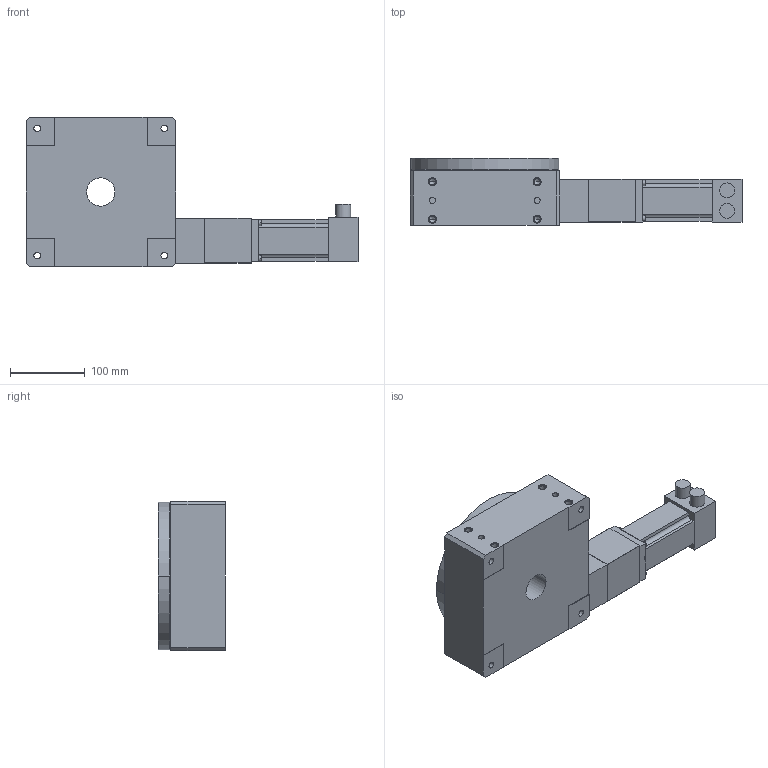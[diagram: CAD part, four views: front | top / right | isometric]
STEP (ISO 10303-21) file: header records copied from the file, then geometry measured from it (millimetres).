
FILE_DESCRIPTION((''),'2;1');
FILE_NAME('R200M7MP2E0_ASM','2009-07-02T',('FK20128'),(''),'PRO/ENGINEER BY PARAMETRIC TECHNOLOGY CORPORATION, 2006200','PRO/ENGINEER BY PARAMETRIC TECHNOLOGY CORPORATION, 2006200','');
FILE_SCHEMA(('CONFIG_CONTROL_DESIGN'));
Length unit declared in the file: millimetre
Products named in the file (4): R200M; R200M-M23; RXXXM-BE233; R200M7MP2E0_ASM
Assembly tree (3 placements, depth 2):
  R200M7MP2E0_ASM
    R200M
    R200M-M23
    RXXXM-BE233
Bounding box: 444.12 x 90 x 200 mm (x, y, z)
Volume: 3962945.5 mm3; surface area: 314236 mm2
Topology: 4 solids, 20 shells, 292 faces, 714 edges, 462 vertices
Faces by surface type: cylinder 146, plane 104, cone 42
Entity records: 8663 total; most frequent: DIRECTION 1634, CARTESIAN_POINT 1445, ORIENTED_EDGE 1300, EDGE_CURVE 682, AXIS2_PLACEMENT_3D 651, VERTEX_POINT 462, EDGE_LOOP 386, CIRCLE 350
